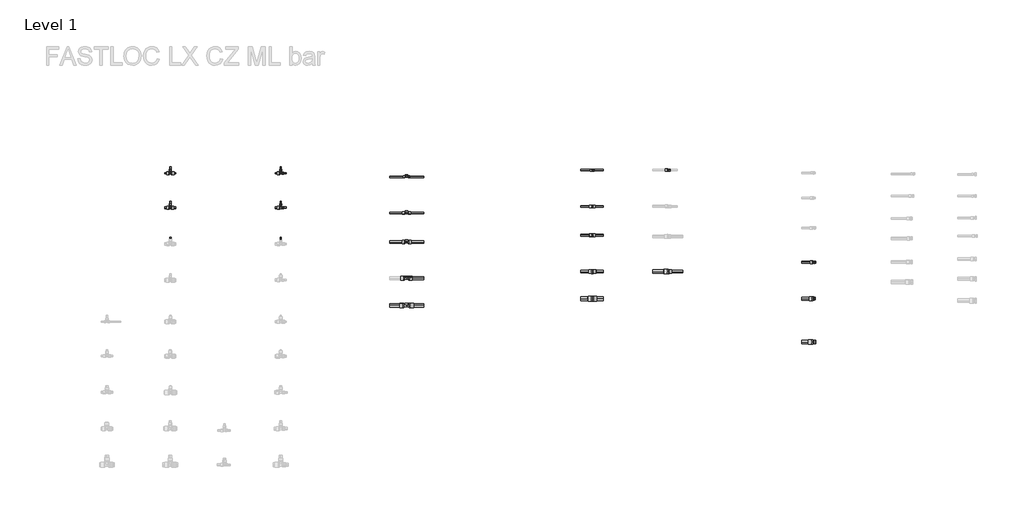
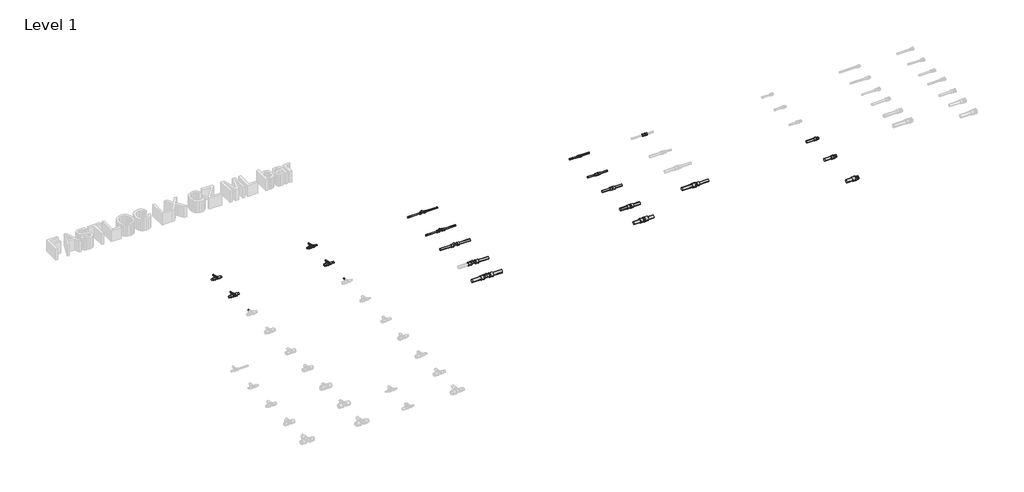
# One storey, part 30 of 78: 38 pipe segments, 19 pipe fittings.
"""IFC4 building model written with IfcOpenShell, lengths in millimetres."""

from ifc_helpers import new_model, si_unit, point, frame, frame_2d, origin, place, context, project, spatial, circle_curve, trimmed, segment, composite_curve, outline, extrude, transform, mapped, element, save
from components import pipe_fitting_027be69e, pipe_fitting_14a26f43, pipe_fitting_91740978, pipe_fitting_5ae7c970, pipe_fitting_e97a97d3, pipe_fitting_8fb58d5f, pipe_fitting_db17a53a, pipe_fitting_d92d4423, pipe_fitting_47d0521d, pipe_fitting_29c4d4eb, pipe_fitting_00caae07, pipe_fitting_1d22680d, pipe_fitting_5e3c5755, pipe_fitting_f5731c1c, pipe_fitting_607ccf76, pipe_fitting_0b32e4b0, pipe_fitting_a999c26e, pipe_fitting_b01d00d0, pipe_fitting_e8fea69e

model = new_model("IFC4")

# Units and contexts
model_context = context("Model", 3, world=origin())
ifc_project = project(units=[si_unit("LENGTHUNIT", "METRE", prefix="MILLI")], contexts=[model_context])

# Site, building, storey
site = spatial("IfcSite", under=ifc_project)
building = spatial("IfcBuilding", under=site)
storey = spatial("IfcBuildingStorey", under=building, Name="Level 1", Elevation=0.0)

# Pipe fittings
placement = place(None, origin())
pipe_fitting_shape = pipe_fitting_027be69e(model_context)
element("IfcPipeFitting", 1, ObjectType="FASTLOC_Coupling equal LX : FSL C LX CZ", at=placement, inside=storey, context=model_context, shape_type="MappedRepresentation", body=[
    mapped(pipe_fitting_shape, transform((29105.4975767, -1205.8821283, 0.0), x_axis=(1.0, 0.0, 0.0), y_axis=(0.0, 1.0, 0.0), z_axis=(0.0, 0.0, 1.0))),
])
pipe_fitting_2_shape = pipe_fitting_14a26f43(model_context)
element("IfcPipeFitting", 2, ObjectType="FASTLOC_Coupling reduced LX : FSL C LX CZ", at=placement, inside=storey, context=model_context, shape_type="MappedRepresentation", body=[
    mapped(pipe_fitting_2_shape, transform((29943.8114162, -2325.8821283, 0.0), x_axis=(1.0, 0.0, 0.0), y_axis=(0.0, 1.0, 0.0), z_axis=(0.0, 0.0, 1.0))),
])
pipe_fitting_3_shape = pipe_fitting_91740978(model_context)
element("IfcPipeFitting", 3, ObjectType="FASTLOC_T-piece internal thread LX : FSL T thread LX CZ", at=placement, inside=storey, context=model_context, shape_type="MappedRepresentation", body=[
    mapped(pipe_fitting_3_shape, transform((27053.7281456, -2399.8272875, 0.0), x_axis=(1.0, 0.0, 0.0), y_axis=(0.0, 1.0, 0.0), z_axis=(0.0, 0.0, 1.0))),
])
pipe_fitting_4_shape = pipe_fitting_5ae7c970(model_context)
element("IfcPipeFitting", 4, ObjectType="FASTLOC_T-piece_LX : FSL T-Piece LX CZ", at=placement, inside=storey, context=model_context, shape_type="MappedRepresentation", body=[
    mapped(pipe_fitting_4_shape, transform((24443.8683677, -1240.2405791, 0.0), x_axis=(1.0, 0.0, 0.0), y_axis=(0.0, 1.0, 0.0), z_axis=(0.0, 0.0, 1.0))),
])
pipe_fitting_5_shape = pipe_fitting_e97a97d3(model_context)
element("IfcPipeFitting", 5, ObjectType="FASTLOC_T-piece_LX : FSL T-Piece LX CZ", at=placement, inside=storey, context=model_context, shape_type="MappedRepresentation", body=[
    mapped(pipe_fitting_5_shape, transform((24443.8683677, -1620.2405791, 0.0), x_axis=(1.0, 0.0, 0.0), y_axis=(0.0, 1.0, 0.0), z_axis=(0.0, 0.0, 1.0))),
])
pipe_fitting_6_shape = pipe_fitting_8fb58d5f(model_context)
element("IfcPipeFitting", 6, ObjectType="FASTLOC_T-piece_LX : FSL T-Piece LX CZ", at=placement, inside=storey, context=model_context, shape_type="MappedRepresentation", body=[
    mapped(pipe_fitting_6_shape, transform((25663.8683677, -1240.2405791, 0.0), x_axis=(1.0, 0.0, 0.0), y_axis=(0.0, 1.0, 0.0), z_axis=(0.0, 0.0, 1.0))),
])
pipe_fitting_7_shape = pipe_fitting_db17a53a(model_context)
element("IfcPipeFitting", 7, ObjectType="FASTLOC_T-piece_LX : FSL T-Piece LX CZ", at=placement, inside=storey, context=model_context, shape_type="MappedRepresentation", body=[
    mapped(pipe_fitting_7_shape, transform((25663.8683677, -1620.2405791, 0.0), x_axis=(1.0, 0.0, 0.0), y_axis=(0.0, 1.0, 0.0), z_axis=(0.0, 0.0, 1.0))),
])
pipe_fitting_8_shape = pipe_fitting_d92d4423(model_context)
element("IfcPipeFitting", 8, ObjectType="FASTLOC_T-piece internal thread LX : FSL T thread LX CZ", at=placement, inside=storey, context=model_context, shape_type="MappedRepresentation", body=[
    mapped(pipe_fitting_8_shape, transform((27053.7281456, -1279.8272875, 0.0), x_axis=(1.0, 0.0, 0.0), y_axis=(0.0, 1.0, 0.0), z_axis=(0.0, 0.0, 1.0))),
])
pipe_fitting_9_shape = pipe_fitting_47d0521d(model_context)
element("IfcPipeFitting", 9, ObjectType="FASTLOC_T-piece internal thread LX : FSL T thread LX CZ", at=placement, inside=storey, context=model_context, shape_type="MappedRepresentation", body=[
    mapped(pipe_fitting_9_shape, transform((27053.7281456, -1679.8272875, 0.0), x_axis=(1.0, 0.0, 0.0), y_axis=(0.0, 1.0, 0.0), z_axis=(0.0, 0.0, 1.0))),
])
pipe_fitting_10_shape = pipe_fitting_29c4d4eb(model_context)
element("IfcPipeFitting", 10, ObjectType="FASTLOC_T-piece internal thread LX : FSL T thread LX CZ", at=placement, inside=storey, context=model_context, shape_type="MappedRepresentation", body=[
    mapped(pipe_fitting_10_shape, transform((27053.7281456, -1999.8272875, 0.0), x_axis=(1.0, 0.0, 0.0), y_axis=(0.0, 1.0, 0.0), z_axis=(0.0, 0.0, 1.0))),
])
pipe_fitting_11_shape = pipe_fitting_00caae07(model_context)
element("IfcPipeFitting", 11, ObjectType="FASTLOC_T-piece internal thread LX : FSL T thread LX CZ", at=placement, inside=storey, context=model_context, shape_type="MappedRepresentation", body=[
    mapped(pipe_fitting_11_shape, transform((27053.7281456, -2699.8272875, 0.0), x_axis=(1.0, 0.0, 0.0), y_axis=(0.0, 1.0, 0.0), z_axis=(0.0, 0.0, 1.0))),
])
pipe_fitting_12_shape = pipe_fitting_1d22680d(model_context)
element("IfcPipeFitting", 12, ObjectType="FASTLOC_Coupling equal LX : FSL C LX CZ", at=placement, inside=storey, context=model_context, shape_type="MappedRepresentation", body=[
    mapped(pipe_fitting_12_shape, transform((29105.4975767, -1605.8821283, 0.0), x_axis=(1.0, 0.0, 0.0), y_axis=(0.0, 1.0, 0.0), z_axis=(0.0, 0.0, 1.0))),
])
pipe_fitting_13_shape = pipe_fitting_5e3c5755(model_context)
element("IfcPipeFitting", 13, ObjectType="FASTLOC_Coupling equal LX : FSL C LX CZ", at=placement, inside=storey, context=model_context, shape_type="MappedRepresentation", body=[
    mapped(pipe_fitting_13_shape, transform((29105.4975767, -1925.8821283, 0.0), x_axis=(1.0, 0.0, 0.0), y_axis=(0.0, 1.0, 0.0), z_axis=(0.0, 0.0, 1.0))),
])
pipe_fitting_14_shape = pipe_fitting_f5731c1c(model_context)
element("IfcPipeFitting", 14, ObjectType="FASTLOC_Coupling equal LX : FSL C LX CZ", at=placement, inside=storey, context=model_context, shape_type="MappedRepresentation", body=[
    mapped(pipe_fitting_14_shape, transform((29105.4975767, -2325.8821283, 0.0), x_axis=(1.0, 0.0, 0.0), y_axis=(0.0, 1.0, 0.0), z_axis=(0.0, 0.0, 1.0))),
])
pipe_fitting_15_shape = pipe_fitting_607ccf76(model_context)
element("IfcPipeFitting", 15, ObjectType="FASTLOC_Coupling equal LX : FSL C LX CZ", at=placement, inside=storey, context=model_context, shape_type="MappedRepresentation", body=[
    mapped(pipe_fitting_15_shape, transform((29105.4975767, -2625.8821283, 0.0), x_axis=(1.0, 0.0, 0.0), y_axis=(0.0, 1.0, 0.0), z_axis=(0.0, 0.0, 1.0))),
])
pipe_fitting_16_shape = pipe_fitting_0b32e4b0(model_context)
element("IfcPipeFitting", 16, ObjectType="FASTLOC_Coupling reduced LX : FSL C LX CZ", at=placement, inside=storey, context=model_context, shape_type="MappedRepresentation", body=[
    mapped(pipe_fitting_16_shape, transform((29943.8114162, -1205.8821283, 0.0), x_axis=(1.0, 0.0, 0.0), y_axis=(0.0, 1.0, 0.0), z_axis=(0.0, 0.0, 1.0))),
])
pipe_fitting_17_shape = pipe_fitting_a999c26e(model_context)
element("IfcPipeFitting", 17, ObjectType="FASTLOC_Adapter_LX, with external thread : FSL A C external CZ", at=placement, inside=storey, context=model_context, shape_type="MappedRepresentation", body=[
    mapped(pipe_fitting_17_shape, transform((31544.0138737, -2224.2068389, 0.0), x_axis=(1.0, 0.0, 0.0), y_axis=(0.0, 1.0, 0.0), z_axis=(0.0, 0.0, 1.0))),
])
pipe_fitting_18_shape = pipe_fitting_b01d00d0(model_context)
element("IfcPipeFitting", 18, ObjectType="FASTLOC_Adapter_LX, with external thread : FSL A C external CZ", at=placement, inside=storey, context=model_context, shape_type="MappedRepresentation", body=[
    mapped(pipe_fitting_18_shape, transform((31544.0138737, -2624.2068389, 0.0), x_axis=(1.0, 0.0, 0.0), y_axis=(0.0, 1.0, 0.0), z_axis=(0.0, 0.0, 1.0))),
])
pipe_fitting_19_shape = pipe_fitting_e8fea69e(model_context)
element("IfcPipeFitting", 19, ObjectType="FASTLOC_Adapter_LX, with external thread : FSL A C external CZ", at=placement, inside=storey, context=model_context, shape_type="MappedRepresentation", body=[
    mapped(pipe_fitting_19_shape, transform((31544.0138737, -3104.2068389, 0.0), x_axis=(1.0, 0.0, 0.0), y_axis=(0.0, 1.0, 0.0), z_axis=(0.0, 0.0, 1.0))),
])

# Pipe segments
element("IfcPipeSegment", 20, ObjectType="FASTLOC LX ML CZ bar", at=placement, inside=storey, context=model_context, shape_type="SweptSolid", body=[
    extrude(outline(composite_curve([segment(trimmed(circle_curve(frame_2d((-1240.2405791, 0.0)), 8.0), [point((-1248.2405791, 0.0))], [point((-1240.2405791, 8.0))], False, "CARTESIAN"), True, "CONTINUOUS"), segment(trimmed(circle_curve(frame_2d((-1240.2405791, 0.0)), 8.0), [point((-1240.2405791, 8.0))], [point((-1232.2405791, 0.0))], False, "CARTESIAN"), True, "CONTINUOUS"), segment(trimmed(circle_curve(frame_2d((-1240.2405791, 0.0)), 8.0), [point((-1232.2405791, 0.0))], [point((-1240.2405791, -8.0))], False, "CARTESIAN"), True, "CONTINUOUS"), segment(trimmed(circle_curve(frame_2d((-1240.2405791, 0.0)), 8.0), [point((-1240.2405791, -8.0))], [point((-1248.2405791, 0.0))], False, "CARTESIAN"), True, "CONTINUOUS")], self_intersect=False)), frame((24459.1683677, 0.0, 0.0), z_axis=(1.0, 0.0, 0.0), x_axis=(0.0, 1.0, 0.0)), (0.0, 0.0, 1.0), 46.7),
])
element("IfcPipeSegment", 21, ObjectType="FASTLOC LX ML CZ bar", at=placement, inside=storey, context=model_context, shape_type="SweptSolid", body=[
    extrude(outline(composite_curve([segment(trimmed(circle_curve(frame_2d((-1240.2405791, 0.0)), 8.0), [point((-1232.2405791, 0.0))], [point((-1240.2405791, -8.0))], False, "CARTESIAN"), True, "CONTINUOUS"), segment(trimmed(circle_curve(frame_2d((-1240.2405791, 0.0)), 8.0), [point((-1240.2405791, -8.0))], [point((-1248.2405791, 0.0))], False, "CARTESIAN"), True, "CONTINUOUS"), segment(trimmed(circle_curve(frame_2d((-1240.2405791, 0.0)), 8.0), [point((-1248.2405791, 0.0))], [point((-1240.2405791, 8.0))], False, "CARTESIAN"), True, "CONTINUOUS"), segment(trimmed(circle_curve(frame_2d((-1240.2405791, 0.0)), 8.0), [point((-1240.2405791, 8.0))], [point((-1232.2405791, 0.0))], False, "CARTESIAN"), True, "CONTINUOUS")], self_intersect=False)), frame((24381.8683677, 0.0, 0.0), z_axis=(1.0, 0.0, 0.0), x_axis=(0.0, 1.0, 0.0)), (0.0, 0.0, 1.0), 46.7),
])
element("IfcPipeSegment", 22, ObjectType="FASTLOC LX ML CZ bar", at=placement, inside=storey, context=model_context, shape_type="SweptSolid", body=[
    extrude(outline(composite_curve([segment(trimmed(circle_curve(frame_2d((0.0, 24443.8683677)), 8.0), [point((0.0, 24451.8683677))], [point((8.0, 24443.8683677))], False, "CARTESIAN"), True, "CONTINUOUS"), segment(trimmed(circle_curve(frame_2d((0.0, 24443.8683677)), 8.0), [point((8.0, 24443.8683677))], [point((0.0, 24435.8683677))], False, "CARTESIAN"), True, "CONTINUOUS"), segment(trimmed(circle_curve(frame_2d((0.0, 24443.8683677)), 8.0), [point((0.0, 24435.8683677))], [point((-8.0, 24443.8683677))], False, "CARTESIAN"), True, "CONTINUOUS"), segment(trimmed(circle_curve(frame_2d((0.0, 24443.8683677)), 8.0), [point((-8.0, 24443.8683677))], [point((0.0, 24451.8683677))], False, "CARTESIAN"), True, "CONTINUOUS")], self_intersect=False)), frame((0.0, -1213.9405791, 0.0), z_axis=(0.0, 1.0, 0.0), x_axis=(0.0, 0.0, 1.0)), (0.0, 0.0, 1.0), 46.0),
])
element("IfcPipeSegment", 23, ObjectType="FASTLOC LX ML CZ bar", at=placement, inside=storey, context=model_context, shape_type="SweptSolid", body=[
    extrude(outline(composite_curve([segment(trimmed(circle_curve(frame_2d((-1620.2405791, 0.0)), 12.5), [point((-1632.7405791, 0.0))], [point((-1620.2405791, 12.5))], False, "CARTESIAN"), True, "CONTINUOUS"), segment(trimmed(circle_curve(frame_2d((-1620.2405791, 0.0)), 12.5), [point((-1620.2405791, 12.5))], [point((-1607.7405791, 0.0))], False, "CARTESIAN"), True, "CONTINUOUS"), segment(trimmed(circle_curve(frame_2d((-1620.2405791, 0.0)), 12.5), [point((-1607.7405791, 0.0))], [point((-1620.2405791, -12.5))], False, "CARTESIAN"), True, "CONTINUOUS"), segment(trimmed(circle_curve(frame_2d((-1620.2405791, 0.0)), 12.5), [point((-1620.2405791, -12.5))], [point((-1632.7405791, 0.0))], False, "CARTESIAN"), True, "CONTINUOUS")], self_intersect=False)), frame((24460.0683677, 0.0, 0.0), z_axis=(1.0, 0.0, 0.0), x_axis=(0.0, 1.0, 0.0)), (0.0, 0.0, 1.0), 45.8),
])
element("IfcPipeSegment", 24, ObjectType="FASTLOC LX ML CZ bar", at=placement, inside=storey, context=model_context, shape_type="SweptSolid", body=[
    extrude(outline(composite_curve([segment(trimmed(circle_curve(frame_2d((-1620.2405791, 0.0)), 12.5), [point((-1607.7405791, 0.0))], [point((-1620.2405791, -12.5))], False, "CARTESIAN"), True, "CONTINUOUS"), segment(trimmed(circle_curve(frame_2d((-1620.2405791, 0.0)), 12.5), [point((-1620.2405791, -12.5))], [point((-1632.7405791, 0.0))], False, "CARTESIAN"), True, "CONTINUOUS"), segment(trimmed(circle_curve(frame_2d((-1620.2405791, 0.0)), 12.5), [point((-1632.7405791, 0.0))], [point((-1620.2405791, 12.5))], False, "CARTESIAN"), True, "CONTINUOUS"), segment(trimmed(circle_curve(frame_2d((-1620.2405791, 0.0)), 12.5), [point((-1620.2405791, 12.5))], [point((-1607.7405791, 0.0))], False, "CARTESIAN"), True, "CONTINUOUS")], self_intersect=False)), frame((24381.8683677, 0.0, 0.0), z_axis=(1.0, 0.0, 0.0), x_axis=(0.0, 1.0, 0.0)), (0.0, 0.0, 1.0), 45.8),
])
element("IfcPipeSegment", 25, ObjectType="FASTLOC LX ML CZ bar", at=placement, inside=storey, context=model_context, shape_type="SweptSolid", body=[
    extrude(outline(composite_curve([segment(trimmed(circle_curve(frame_2d((0.0, 24443.8683677)), 8.0), [point((0.0, 24451.8683677))], [point((8.0, 24443.8683677))], False, "CARTESIAN"), True, "CONTINUOUS"), segment(trimmed(circle_curve(frame_2d((0.0, 24443.8683677)), 8.0), [point((8.0, 24443.8683677))], [point((0.0, 24435.8683677))], False, "CARTESIAN"), True, "CONTINUOUS"), segment(trimmed(circle_curve(frame_2d((0.0, 24443.8683677)), 8.0), [point((0.0, 24435.8683677))], [point((-8.0, 24443.8683677))], False, "CARTESIAN"), True, "CONTINUOUS"), segment(trimmed(circle_curve(frame_2d((0.0, 24443.8683677)), 8.0), [point((-8.0, 24443.8683677))], [point((0.0, 24451.8683677))], False, "CARTESIAN"), True, "CONTINUOUS")], self_intersect=False)), frame((0.0, -1591.2405791, 0.0), z_axis=(0.0, 1.0, 0.0), x_axis=(0.0, 0.0, 1.0)), (0.0, 0.0, 1.0), 43.3),
])
element("IfcPipeSegment", 26, ObjectType="FASTLOC LX ML CZ bar", at=placement, inside=storey, context=model_context, shape_type="SweptSolid", body=[
    extrude(outline(composite_curve([segment(trimmed(circle_curve(frame_2d((0.0, 24443.8683677)), 8.0), [point((0.0, 24451.8683677))], [point((8.0, 24443.8683677))], False, "CARTESIAN"), True, "CONTINUOUS"), segment(trimmed(circle_curve(frame_2d((0.0, 24443.8683677)), 8.0), [point((8.0, 24443.8683677))], [point((0.0, 24435.8683677))], False, "CARTESIAN"), True, "CONTINUOUS"), segment(trimmed(circle_curve(frame_2d((0.0, 24443.8683677)), 8.0), [point((0.0, 24435.8683677))], [point((-8.0, 24443.8683677))], False, "CARTESIAN"), True, "CONTINUOUS"), segment(trimmed(circle_curve(frame_2d((0.0, 24443.8683677)), 8.0), [point((-8.0, 24443.8683677))], [point((0.0, 24451.8683677))], False, "CARTESIAN"), True, "CONTINUOUS")], self_intersect=False)), frame((0.0, -1991.0405791, 0.0), z_axis=(0.0, 1.0, 0.0), x_axis=(0.0, 0.0, 1.0)), (0.0, 0.0, 1.0), 43.1),
])
element("IfcPipeSegment", 27, ObjectType="FASTLOC LX ML CZ bar", at=placement, inside=storey, context=model_context, shape_type="SweptSolid", body=[
    extrude(outline(composite_curve([segment(trimmed(circle_curve(frame_2d((-1240.2405791, 0.0)), 8.0), [point((-1248.2405791, 0.0))], [point((-1240.2405791, 8.0))], False, "CARTESIAN"), True, "CONTINUOUS"), segment(trimmed(circle_curve(frame_2d((-1240.2405791, 0.0)), 8.0), [point((-1240.2405791, 8.0))], [point((-1232.2405791, 0.0))], False, "CARTESIAN"), True, "CONTINUOUS"), segment(trimmed(circle_curve(frame_2d((-1240.2405791, 0.0)), 8.0), [point((-1232.2405791, 0.0))], [point((-1240.2405791, -8.0))], False, "CARTESIAN"), True, "CONTINUOUS"), segment(trimmed(circle_curve(frame_2d((-1240.2405791, 0.0)), 8.0), [point((-1240.2405791, -8.0))], [point((-1248.2405791, 0.0))], False, "CARTESIAN"), True, "CONTINUOUS")], self_intersect=False)), frame((25678.9683677, 0.0, 0.0), z_axis=(1.0, 0.0, 0.0), x_axis=(0.0, 1.0, 0.0)), (0.0, 0.0, 1.0), 46.9),
])
element("IfcPipeSegment", 28, ObjectType="FASTLOC LX ML CZ bar", at=placement, inside=storey, context=model_context, shape_type="SweptSolid", body=[
    extrude(outline(composite_curve([segment(trimmed(circle_curve(frame_2d((-1240.2405791, 0.0)), 8.0), [point((-1232.2405791, 0.0))], [point((-1240.2405791, -8.0))], False, "CARTESIAN"), True, "CONTINUOUS"), segment(trimmed(circle_curve(frame_2d((-1240.2405791, 0.0)), 8.0), [point((-1240.2405791, -8.0))], [point((-1248.2405791, 0.0))], False, "CARTESIAN"), True, "CONTINUOUS"), segment(trimmed(circle_curve(frame_2d((-1240.2405791, 0.0)), 8.0), [point((-1248.2405791, 0.0))], [point((-1240.2405791, 8.0))], False, "CARTESIAN"), True, "CONTINUOUS"), segment(trimmed(circle_curve(frame_2d((-1240.2405791, 0.0)), 8.0), [point((-1240.2405791, 8.0))], [point((-1232.2405791, 0.0))], False, "CARTESIAN"), True, "CONTINUOUS")], self_intersect=False)), frame((25601.8683677, 0.0, 0.0), z_axis=(1.0, 0.0, 0.0), x_axis=(0.0, 1.0, 0.0)), (0.0, 0.0, 1.0), 46.5),
])
element("IfcPipeSegment", 29, ObjectType="FASTLOC LX ML CZ bar", at=placement, inside=storey, context=model_context, shape_type="SweptSolid", body=[
    extrude(outline(composite_curve([segment(trimmed(circle_curve(frame_2d((0.0, 25663.8683677)), 8.0), [point((0.0, 25671.8683677))], [point((8.0, 25663.8683677))], False, "CARTESIAN"), True, "CONTINUOUS"), segment(trimmed(circle_curve(frame_2d((0.0, 25663.8683677)), 8.0), [point((8.0, 25663.8683677))], [point((0.0, 25655.8683677))], False, "CARTESIAN"), True, "CONTINUOUS"), segment(trimmed(circle_curve(frame_2d((0.0, 25663.8683677)), 8.0), [point((0.0, 25655.8683677))], [point((-8.0, 25663.8683677))], False, "CARTESIAN"), True, "CONTINUOUS"), segment(trimmed(circle_curve(frame_2d((0.0, 25663.8683677)), 8.0), [point((-8.0, 25663.8683677))], [point((0.0, 25671.8683677))], False, "CARTESIAN"), True, "CONTINUOUS")], self_intersect=False)), frame((0.0, -1213.8405791, 0.0), z_axis=(0.0, 1.0, 0.0), x_axis=(0.0, 0.0, 1.0)), (0.0, 0.0, 1.0), 45.9),
])
element("IfcPipeSegment", 30, ObjectType="FASTLOC LX ML CZ bar", at=placement, inside=storey, context=model_context, shape_type="SweptSolid", body=[
    extrude(outline(composite_curve([segment(trimmed(circle_curve(frame_2d((-1620.2405791, 0.0)), 8.0), [point((-1628.2405791, 0.0))], [point((-1620.2405791, 8.0))], False, "CARTESIAN"), True, "CONTINUOUS"), segment(trimmed(circle_curve(frame_2d((-1620.2405791, 0.0)), 8.0), [point((-1620.2405791, 8.0))], [point((-1612.2405791, 0.0))], False, "CARTESIAN"), True, "CONTINUOUS"), segment(trimmed(circle_curve(frame_2d((-1620.2405791, 0.0)), 8.0), [point((-1612.2405791, 0.0))], [point((-1620.2405791, -8.0))], False, "CARTESIAN"), True, "CONTINUOUS"), segment(trimmed(circle_curve(frame_2d((-1620.2405791, 0.0)), 8.0), [point((-1620.2405791, -8.0))], [point((-1628.2405791, 0.0))], False, "CARTESIAN"), True, "CONTINUOUS")], self_intersect=False)), frame((25678.9683677, 0.0, 0.0), z_axis=(1.0, 0.0, 0.0), x_axis=(0.0, 1.0, 0.0)), (0.0, 0.0, 1.0), 46.9),
])
element("IfcPipeSegment", 31, ObjectType="FASTLOC LX ML CZ bar", at=placement, inside=storey, context=model_context, shape_type="SweptSolid", body=[
    extrude(outline(composite_curve([segment(trimmed(circle_curve(frame_2d((-1620.2405791, 0.0)), 12.5), [point((-1607.7405791, 0.0))], [point((-1620.2405791, -12.5))], False, "CARTESIAN"), True, "CONTINUOUS"), segment(trimmed(circle_curve(frame_2d((-1620.2405791, 0.0)), 12.5), [point((-1620.2405791, -12.5))], [point((-1632.7405791, 0.0))], False, "CARTESIAN"), True, "CONTINUOUS"), segment(trimmed(circle_curve(frame_2d((-1620.2405791, 0.0)), 12.5), [point((-1632.7405791, 0.0))], [point((-1620.2405791, 12.5))], False, "CARTESIAN"), True, "CONTINUOUS"), segment(trimmed(circle_curve(frame_2d((-1620.2405791, 0.0)), 12.5), [point((-1620.2405791, 12.5))], [point((-1607.7405791, 0.0))], False, "CARTESIAN"), True, "CONTINUOUS")], self_intersect=False)), frame((25601.8683677, 0.0, 0.0), z_axis=(1.0, 0.0, 0.0), x_axis=(0.0, 1.0, 0.0)), (0.0, 0.0, 1.0), 45.6),
])
element("IfcPipeSegment", 32, ObjectType="FASTLOC LX ML CZ bar", at=placement, inside=storey, context=model_context, shape_type="SweptSolid", body=[
    extrude(outline(composite_curve([segment(trimmed(circle_curve(frame_2d((0.0, 25663.8683677)), 8.0), [point((0.0, 25671.8683677))], [point((8.0, 25663.8683677))], False, "CARTESIAN"), True, "CONTINUOUS"), segment(trimmed(circle_curve(frame_2d((0.0, 25663.8683677)), 8.0), [point((8.0, 25663.8683677))], [point((0.0, 25655.8683677))], False, "CARTESIAN"), True, "CONTINUOUS"), segment(trimmed(circle_curve(frame_2d((0.0, 25663.8683677)), 8.0), [point((0.0, 25655.8683677))], [point((-8.0, 25663.8683677))], False, "CARTESIAN"), True, "CONTINUOUS"), segment(trimmed(circle_curve(frame_2d((0.0, 25663.8683677)), 8.0), [point((-8.0, 25663.8683677))], [point((0.0, 25671.8683677))], False, "CARTESIAN"), True, "CONTINUOUS")], self_intersect=False)), frame((0.0, -1591.1405791, 0.0), z_axis=(0.0, 1.0, 0.0), x_axis=(0.0, 0.0, 1.0)), (0.0, 0.0, 1.0), 43.2),
])
element("IfcPipeSegment", 33, ObjectType="FASTLOC LX ML CZ bar", at=placement, inside=storey, context=model_context, shape_type="SweptSolid", body=[
    extrude(outline(composite_curve([segment(trimmed(circle_curve(frame_2d((0.0, 25663.8683677)), 8.0), [point((0.0, 25671.8683677))], [point((8.0, 25663.8683677))], False, "CARTESIAN"), True, "CONTINUOUS"), segment(trimmed(circle_curve(frame_2d((0.0, 25663.8683677)), 8.0), [point((8.0, 25663.8683677))], [point((0.0, 25655.8683677))], False, "CARTESIAN"), True, "CONTINUOUS"), segment(trimmed(circle_curve(frame_2d((0.0, 25663.8683677)), 8.0), [point((0.0, 25655.8683677))], [point((-8.0, 25663.8683677))], False, "CARTESIAN"), True, "CONTINUOUS"), segment(trimmed(circle_curve(frame_2d((0.0, 25663.8683677)), 8.0), [point((-8.0, 25663.8683677))], [point((0.0, 25671.8683677))], False, "CARTESIAN"), True, "CONTINUOUS")], self_intersect=False)), frame((0.0, -1991.1405791, 0.0), z_axis=(0.0, 1.0, 0.0), x_axis=(0.0, 0.0, 1.0)), (0.0, 0.0, 1.0), 43.2),
])
element("IfcPipeSegment", 34, ObjectType="FASTLOC LX ML CZ bar", at=placement, inside=storey, context=model_context, shape_type="SweptSolid", body=[
    extrude(outline(composite_curve([segment(trimmed(circle_curve(frame_2d((-1279.8272875, 0.0)), 8.0), [point((-1287.8272875, 0.0))], [point((-1279.8272875, 8.0))], False, "CARTESIAN"), True, "CONTINUOUS"), segment(trimmed(circle_curve(frame_2d((-1279.8272875, 0.0)), 8.0), [point((-1279.8272875, 8.0))], [point((-1271.8272875, 0.0))], False, "CARTESIAN"), True, "CONTINUOUS"), segment(trimmed(circle_curve(frame_2d((-1279.8272875, 0.0)), 8.0), [point((-1271.8272875, 0.0))], [point((-1279.8272875, -8.0))], False, "CARTESIAN"), True, "CONTINUOUS"), segment(trimmed(circle_curve(frame_2d((-1279.8272875, 0.0)), 8.0), [point((-1279.8272875, -8.0))], [point((-1287.8272875, 0.0))], False, "CARTESIAN"), True, "CONTINUOUS")], self_intersect=False)), frame((27075.7281456, 0.0, 0.0), z_axis=(1.0, 0.0, 0.0), x_axis=(0.0, 1.0, 0.0)), (0.0, 0.0, 1.0), 170.0),
])
element("IfcPipeSegment", 35, ObjectType="FASTLOC LX ML CZ bar", at=placement, inside=storey, context=model_context, shape_type="SweptSolid", body=[
    extrude(outline(composite_curve([segment(trimmed(circle_curve(frame_2d((-1279.8272875, 0.0)), 8.0), [point((-1271.8272875, 0.0))], [point((-1279.8272875, -8.0))], False, "CARTESIAN"), True, "CONTINUOUS"), segment(trimmed(circle_curve(frame_2d((-1279.8272875, 0.0)), 8.0), [point((-1279.8272875, -8.0))], [point((-1287.8272875, 0.0))], False, "CARTESIAN"), True, "CONTINUOUS"), segment(trimmed(circle_curve(frame_2d((-1279.8272875, 0.0)), 8.0), [point((-1287.8272875, 0.0))], [point((-1279.8272875, 8.0))], False, "CARTESIAN"), True, "CONTINUOUS"), segment(trimmed(circle_curve(frame_2d((-1279.8272875, 0.0)), 8.0), [point((-1279.8272875, 8.0))], [point((-1271.8272875, 0.0))], False, "CARTESIAN"), True, "CONTINUOUS")], self_intersect=False)), frame((26866.7281456, 0.0, 0.0), z_axis=(1.0, 0.0, 0.0), x_axis=(0.0, 1.0, 0.0)), (0.0, 0.0, 1.0), 165.0),
])
element("IfcPipeSegment", 36, ObjectType="FASTLOC LX ML CZ bar", at=placement, inside=storey, context=model_context, shape_type="SweptSolid", body=[
    extrude(outline(composite_curve([segment(trimmed(circle_curve(frame_2d((-1679.8272875, 0.0)), 8.0), [point((-1687.8272875, 0.0))], [point((-1679.8272875, 8.0))], False, "CARTESIAN"), True, "CONTINUOUS"), segment(trimmed(circle_curve(frame_2d((-1679.8272875, 0.0)), 8.0), [point((-1679.8272875, 8.0))], [point((-1671.8272875, 0.0))], False, "CARTESIAN"), True, "CONTINUOUS"), segment(trimmed(circle_curve(frame_2d((-1679.8272875, 0.0)), 8.0), [point((-1671.8272875, 0.0))], [point((-1679.8272875, -8.0))], False, "CARTESIAN"), True, "CONTINUOUS"), segment(trimmed(circle_curve(frame_2d((-1679.8272875, 0.0)), 8.0), [point((-1679.8272875, -8.0))], [point((-1687.8272875, 0.0))], False, "CARTESIAN"), True, "CONTINUOUS")], self_intersect=False)), frame((27076.2281456, 0.0, 0.0), z_axis=(1.0, 0.0, 0.0), x_axis=(0.0, 1.0, 0.0)), (0.0, 0.0, 1.0), 169.5),
])
element("IfcPipeSegment", 37, ObjectType="FASTLOC LX ML CZ bar", at=placement, inside=storey, context=model_context, shape_type="SweptSolid", body=[
    extrude(outline(composite_curve([segment(trimmed(circle_curve(frame_2d((-1679.8272875, 0.0)), 8.0), [point((-1671.8272875, 0.0))], [point((-1679.8272875, -8.0))], False, "CARTESIAN"), True, "CONTINUOUS"), segment(trimmed(circle_curve(frame_2d((-1679.8272875, 0.0)), 8.0), [point((-1679.8272875, -8.0))], [point((-1687.8272875, 0.0))], False, "CARTESIAN"), True, "CONTINUOUS"), segment(trimmed(circle_curve(frame_2d((-1679.8272875, 0.0)), 8.0), [point((-1687.8272875, 0.0))], [point((-1679.8272875, 8.0))], False, "CARTESIAN"), True, "CONTINUOUS"), segment(trimmed(circle_curve(frame_2d((-1679.8272875, 0.0)), 8.0), [point((-1679.8272875, 8.0))], [point((-1671.8272875, 0.0))], False, "CARTESIAN"), True, "CONTINUOUS")], self_intersect=False)), frame((26866.7281456, 0.0, 0.0), z_axis=(1.0, 0.0, 0.0), x_axis=(0.0, 1.0, 0.0)), (0.0, 0.0, 1.0), 164.5),
])
element("IfcPipeSegment", 38, ObjectType="FASTLOC LX ML CZ bar", at=placement, inside=storey, context=model_context, shape_type="SweptSolid", body=[
    extrude(outline(composite_curve([segment(trimmed(circle_curve(frame_2d((-1999.8272875, 0.0)), 12.5), [point((-2012.3272875, 0.0))], [point((-1999.8272875, 12.5))], False, "CARTESIAN"), True, "CONTINUOUS"), segment(trimmed(circle_curve(frame_2d((-1999.8272875, 0.0)), 12.5), [point((-1999.8272875, 12.5))], [point((-1987.3272875, 0.0))], False, "CARTESIAN"), True, "CONTINUOUS"), segment(trimmed(circle_curve(frame_2d((-1999.8272875, 0.0)), 12.5), [point((-1987.3272875, 0.0))], [point((-1999.8272875, -12.5))], False, "CARTESIAN"), True, "CONTINUOUS"), segment(trimmed(circle_curve(frame_2d((-1999.8272875, 0.0)), 12.5), [point((-1999.8272875, -12.5))], [point((-2012.3272875, 0.0))], False, "CARTESIAN"), True, "CONTINUOUS")], self_intersect=False)), frame((27080.4281456, 0.0, 0.0), z_axis=(1.0, 0.0, 0.0), x_axis=(0.0, 1.0, 0.0)), (0.0, 0.0, 1.0), 165.3),
])
element("IfcPipeSegment", 39, ObjectType="FASTLOC LX ML CZ bar", at=placement, inside=storey, context=model_context, shape_type="SweptSolid", body=[
    extrude(outline(composite_curve([segment(trimmed(circle_curve(frame_2d((-1999.8272875, 0.0)), 12.5), [point((-1987.3272875, 0.0))], [point((-1999.8272875, -12.5))], False, "CARTESIAN"), True, "CONTINUOUS"), segment(trimmed(circle_curve(frame_2d((-1999.8272875, 0.0)), 12.5), [point((-1999.8272875, -12.5))], [point((-2012.3272875, 0.0))], False, "CARTESIAN"), True, "CONTINUOUS"), segment(trimmed(circle_curve(frame_2d((-1999.8272875, 0.0)), 12.5), [point((-2012.3272875, 0.0))], [point((-1999.8272875, 12.5))], False, "CARTESIAN"), True, "CONTINUOUS"), segment(trimmed(circle_curve(frame_2d((-1999.8272875, 0.0)), 12.5), [point((-1999.8272875, 12.5))], [point((-1987.3272875, 0.0))], False, "CARTESIAN"), True, "CONTINUOUS")], self_intersect=False)), frame((26866.7281456, 0.0, 0.0), z_axis=(1.0, 0.0, 0.0), x_axis=(0.0, 1.0, 0.0)), (0.0, 0.0, 1.0), 160.3),
])
element("IfcPipeSegment", 40, ObjectType="FASTLOC LX ML CZ bar", at=placement, inside=storey, context=model_context, shape_type="SweptSolid", body=[
    extrude(outline(composite_curve([segment(trimmed(circle_curve(frame_2d((-2399.8272875, 0.0)), 16.0), [point((-2415.8272875, 0.0))], [point((-2399.8272875, 16.0))], False, "CARTESIAN"), True, "CONTINUOUS"), segment(trimmed(circle_curve(frame_2d((-2399.8272875, 0.0)), 16.0), [point((-2399.8272875, 16.0))], [point((-2383.8272875, 0.0))], False, "CARTESIAN"), True, "CONTINUOUS"), segment(trimmed(circle_curve(frame_2d((-2399.8272875, 0.0)), 16.0), [point((-2383.8272875, 0.0))], [point((-2399.8272875, -16.0))], False, "CARTESIAN"), True, "CONTINUOUS"), segment(trimmed(circle_curve(frame_2d((-2399.8272875, 0.0)), 16.0), [point((-2399.8272875, -16.0))], [point((-2415.8272875, 0.0))], False, "CARTESIAN"), True, "CONTINUOUS")], self_intersect=False)), frame((27086.7281456, 0.0, 0.0), z_axis=(1.0, 0.0, 0.0), x_axis=(0.0, 1.0, 0.0)), (0.0, 0.0, 1.0), 159.0),
])
element("IfcPipeSegment", 41, ObjectType="FASTLOC LX ML CZ bar", at=placement, inside=storey, context=model_context, shape_type="SweptSolid", body=[
    extrude(outline(composite_curve([segment(trimmed(circle_curve(frame_2d((-2699.8272875, 0.0)), 20.0), [point((-2719.8272875, 0.0))], [point((-2699.8272875, 20.0))], False, "CARTESIAN"), True, "CONTINUOUS"), segment(trimmed(circle_curve(frame_2d((-2699.8272875, 0.0)), 20.0), [point((-2699.8272875, 20.0))], [point((-2679.8272875, 0.0))], False, "CARTESIAN"), True, "CONTINUOUS"), segment(trimmed(circle_curve(frame_2d((-2699.8272875, 0.0)), 20.0), [point((-2679.8272875, 0.0))], [point((-2699.8272875, -20.0))], False, "CARTESIAN"), True, "CONTINUOUS"), segment(trimmed(circle_curve(frame_2d((-2699.8272875, 0.0)), 20.0), [point((-2699.8272875, -20.0))], [point((-2719.8272875, 0.0))], False, "CARTESIAN"), True, "CONTINUOUS")], self_intersect=False)), frame((27095.0281456, 0.0, 0.0), z_axis=(1.0, 0.0, 0.0), x_axis=(0.0, 1.0, 0.0)), (0.0, 0.0, 1.0), 150.7),
])
element("IfcPipeSegment", 42, ObjectType="FASTLOC LX ML CZ bar", at=placement, inside=storey, context=model_context, shape_type="SweptSolid", body=[
    extrude(outline(composite_curve([segment(trimmed(circle_curve(frame_2d((-2699.8272875, 0.0)), 20.0), [point((-2679.8272875, 0.0))], [point((-2699.8272875, -20.0))], False, "CARTESIAN"), True, "CONTINUOUS"), segment(trimmed(circle_curve(frame_2d((-2699.8272875, 0.0)), 20.0), [point((-2699.8272875, -20.0))], [point((-2719.8272875, 0.0))], False, "CARTESIAN"), True, "CONTINUOUS"), segment(trimmed(circle_curve(frame_2d((-2699.8272875, 0.0)), 20.0), [point((-2719.8272875, 0.0))], [point((-2699.8272875, 20.0))], False, "CARTESIAN"), True, "CONTINUOUS"), segment(trimmed(circle_curve(frame_2d((-2699.8272875, 0.0)), 20.0), [point((-2699.8272875, 20.0))], [point((-2679.8272875, 0.0))], False, "CARTESIAN"), True, "CONTINUOUS")], self_intersect=False)), frame((26866.7281456, 0.0, 0.0), z_axis=(1.0, 0.0, 0.0), x_axis=(0.0, 1.0, 0.0)), (0.0, 0.0, 1.0), 145.7),
])
element("IfcPipeSegment", 43, ObjectType="FASTLOC LX ML CZ bar", at=placement, inside=storey, context=model_context, shape_type="SweptSolid", body=[
    extrude(outline(composite_curve([segment(trimmed(circle_curve(frame_2d((-1205.8821283, 0.0)), 8.0), [point((-1213.8821283, 0.0))], [point((-1205.8821283, 8.0))], False, "CARTESIAN"), True, "CONTINUOUS"), segment(trimmed(circle_curve(frame_2d((-1205.8821283, 0.0)), 8.0), [point((-1205.8821283, 8.0))], [point((-1197.8821283, 0.0))], False, "CARTESIAN"), True, "CONTINUOUS"), segment(trimmed(circle_curve(frame_2d((-1205.8821283, 0.0)), 8.0), [point((-1197.8821283, 0.0))], [point((-1205.8821283, -8.0))], False, "CARTESIAN"), True, "CONTINUOUS"), segment(trimmed(circle_curve(frame_2d((-1205.8821283, 0.0)), 8.0), [point((-1205.8821283, -8.0))], [point((-1213.8821283, 0.0))], False, "CARTESIAN"), True, "CONTINUOUS")], self_intersect=False)), frame((29112.6975767, 0.0, 0.0), z_axis=(1.0, 0.0, 0.0), x_axis=(0.0, 1.0, 0.0)), (0.0, 0.0, 1.0), 115.0),
])
element("IfcPipeSegment", 44, ObjectType="FASTLOC LX ML CZ bar", at=placement, inside=storey, context=model_context, shape_type="SweptSolid", body=[
    extrude(outline(composite_curve([segment(trimmed(circle_curve(frame_2d((-1205.8821283, 0.0)), 8.0), [point((-1197.8821283, 0.0))], [point((-1205.8821283, -8.0))], False, "CARTESIAN"), True, "CONTINUOUS"), segment(trimmed(circle_curve(frame_2d((-1205.8821283, 0.0)), 8.0), [point((-1205.8821283, -8.0))], [point((-1213.8821283, 0.0))], False, "CARTESIAN"), True, "CONTINUOUS"), segment(trimmed(circle_curve(frame_2d((-1205.8821283, 0.0)), 8.0), [point((-1213.8821283, 0.0))], [point((-1205.8821283, 8.0))], False, "CARTESIAN"), True, "CONTINUOUS"), segment(trimmed(circle_curve(frame_2d((-1205.8821283, 0.0)), 8.0), [point((-1205.8821283, 8.0))], [point((-1197.8821283, 0.0))], False, "CARTESIAN"), True, "CONTINUOUS")], self_intersect=False)), frame((28978.2975767, 0.0, 0.0), z_axis=(1.0, 0.0, 0.0), x_axis=(0.0, 1.0, 0.0)), (0.0, 0.0, 1.0), 120.0),
])
element("IfcPipeSegment", 45, ObjectType="FASTLOC LX ML CZ bar", at=placement, inside=storey, context=model_context, shape_type="SweptSolid", body=[
    extrude(outline(composite_curve([segment(trimmed(circle_curve(frame_2d((-1605.8821283, 0.0)), 8.0), [point((-1613.8821283, 0.0))], [point((-1605.8821283, 8.0))], False, "CARTESIAN"), True, "CONTINUOUS"), segment(trimmed(circle_curve(frame_2d((-1605.8821283, 0.0)), 8.0), [point((-1605.8821283, 8.0))], [point((-1597.8821283, 0.0))], False, "CARTESIAN"), True, "CONTINUOUS"), segment(trimmed(circle_curve(frame_2d((-1605.8821283, 0.0)), 8.0), [point((-1597.8821283, 0.0))], [point((-1605.8821283, -8.0))], False, "CARTESIAN"), True, "CONTINUOUS"), segment(trimmed(circle_curve(frame_2d((-1605.8821283, 0.0)), 8.0), [point((-1605.8821283, -8.0))], [point((-1613.8821283, 0.0))], False, "CARTESIAN"), True, "CONTINUOUS")], self_intersect=False)), frame((29112.8975767, 0.0, 0.0), z_axis=(1.0, 0.0, 0.0), x_axis=(0.0, 1.0, 0.0)), (0.0, 0.0, 1.0), 114.8),
])
element("IfcPipeSegment", 46, ObjectType="FASTLOC LX ML CZ bar", at=placement, inside=storey, context=model_context, shape_type="SweptSolid", body=[
    extrude(outline(composite_curve([segment(trimmed(circle_curve(frame_2d((-1605.8821283, 0.0)), 8.0), [point((-1597.8821283, 0.0))], [point((-1605.8821283, -8.0))], False, "CARTESIAN"), True, "CONTINUOUS"), segment(trimmed(circle_curve(frame_2d((-1605.8821283, 0.0)), 8.0), [point((-1605.8821283, -8.0))], [point((-1613.8821283, 0.0))], False, "CARTESIAN"), True, "CONTINUOUS"), segment(trimmed(circle_curve(frame_2d((-1605.8821283, 0.0)), 8.0), [point((-1613.8821283, 0.0))], [point((-1605.8821283, 8.0))], False, "CARTESIAN"), True, "CONTINUOUS"), segment(trimmed(circle_curve(frame_2d((-1605.8821283, 0.0)), 8.0), [point((-1605.8821283, 8.0))], [point((-1597.8821283, 0.0))], False, "CARTESIAN"), True, "CONTINUOUS")], self_intersect=False)), frame((28978.2975767, 0.0, 0.0), z_axis=(1.0, 0.0, 0.0), x_axis=(0.0, 1.0, 0.0)), (0.0, 0.0, 1.0), 119.8),
])
element("IfcPipeSegment", 47, ObjectType="FASTLOC LX ML CZ bar", at=placement, inside=storey, context=model_context, shape_type="SweptSolid", body=[
    extrude(outline(composite_curve([segment(trimmed(circle_curve(frame_2d((-1925.8821283, 0.0)), 12.5), [point((-1938.3821283, 0.0))], [point((-1925.8821283, 12.5))], False, "CARTESIAN"), True, "CONTINUOUS"), segment(trimmed(circle_curve(frame_2d((-1925.8821283, 0.0)), 12.5), [point((-1925.8821283, 12.5))], [point((-1913.3821283, 0.0))], False, "CARTESIAN"), True, "CONTINUOUS"), segment(trimmed(circle_curve(frame_2d((-1925.8821283, 0.0)), 12.5), [point((-1913.3821283, 0.0))], [point((-1925.8821283, -12.5))], False, "CARTESIAN"), True, "CONTINUOUS"), segment(trimmed(circle_curve(frame_2d((-1925.8821283, 0.0)), 12.5), [point((-1925.8821283, -12.5))], [point((-1938.3821283, 0.0))], False, "CARTESIAN"), True, "CONTINUOUS")], self_intersect=False)), frame((29113.4975767, 0.0, 0.0), z_axis=(1.0, 0.0, 0.0), x_axis=(0.0, 1.0, 0.0)), (0.0, 0.0, 1.0), 114.2),
])
element("IfcPipeSegment", 48, ObjectType="FASTLOC LX ML CZ bar", at=placement, inside=storey, context=model_context, shape_type="SweptSolid", body=[
    extrude(outline(composite_curve([segment(trimmed(circle_curve(frame_2d((-1925.8821283, 0.0)), 12.5), [point((-1913.3821283, 0.0))], [point((-1925.8821283, -12.5))], False, "CARTESIAN"), True, "CONTINUOUS"), segment(trimmed(circle_curve(frame_2d((-1925.8821283, 0.0)), 12.5), [point((-1925.8821283, -12.5))], [point((-1938.3821283, 0.0))], False, "CARTESIAN"), True, "CONTINUOUS"), segment(trimmed(circle_curve(frame_2d((-1925.8821283, 0.0)), 12.5), [point((-1938.3821283, 0.0))], [point((-1925.8821283, 12.5))], False, "CARTESIAN"), True, "CONTINUOUS"), segment(trimmed(circle_curve(frame_2d((-1925.8821283, 0.0)), 12.5), [point((-1925.8821283, 12.5))], [point((-1913.3821283, 0.0))], False, "CARTESIAN"), True, "CONTINUOUS")], self_intersect=False)), frame((28978.2975767, 0.0, 0.0), z_axis=(1.0, 0.0, 0.0), x_axis=(0.0, 1.0, 0.0)), (0.0, 0.0, 1.0), 119.2),
])
element("IfcPipeSegment", 49, ObjectType="FASTLOC LX ML CZ bar", at=placement, inside=storey, context=model_context, shape_type="SweptSolid", body=[
    extrude(outline(composite_curve([segment(trimmed(circle_curve(frame_2d((-2325.8821283, 0.0)), 16.0), [point((-2341.8821283, 0.0))], [point((-2325.8821283, 16.0))], False, "CARTESIAN"), True, "CONTINUOUS"), segment(trimmed(circle_curve(frame_2d((-2325.8821283, 0.0)), 16.0), [point((-2325.8821283, 16.0))], [point((-2309.8821283, 0.0))], False, "CARTESIAN"), True, "CONTINUOUS"), segment(trimmed(circle_curve(frame_2d((-2325.8821283, 0.0)), 16.0), [point((-2309.8821283, 0.0))], [point((-2325.8821283, -16.0))], False, "CARTESIAN"), True, "CONTINUOUS"), segment(trimmed(circle_curve(frame_2d((-2325.8821283, 0.0)), 16.0), [point((-2325.8821283, -16.0))], [point((-2341.8821283, 0.0))], False, "CARTESIAN"), True, "CONTINUOUS")], self_intersect=False)), frame((29115.4975767, 0.0, 0.0), z_axis=(1.0, 0.0, 0.0), x_axis=(0.0, 1.0, 0.0)), (0.0, 0.0, 1.0), 112.2),
])
element("IfcPipeSegment", 50, ObjectType="FASTLOC LX ML CZ bar", at=placement, inside=storey, context=model_context, shape_type="SweptSolid", body=[
    extrude(outline(composite_curve([segment(trimmed(circle_curve(frame_2d((-2325.8821283, 0.0)), 16.0), [point((-2309.8821283, 0.0))], [point((-2325.8821283, -16.0))], False, "CARTESIAN"), True, "CONTINUOUS"), segment(trimmed(circle_curve(frame_2d((-2325.8821283, 0.0)), 16.0), [point((-2325.8821283, -16.0))], [point((-2341.8821283, 0.0))], False, "CARTESIAN"), True, "CONTINUOUS"), segment(trimmed(circle_curve(frame_2d((-2325.8821283, 0.0)), 16.0), [point((-2341.8821283, 0.0))], [point((-2325.8821283, 16.0))], False, "CARTESIAN"), True, "CONTINUOUS"), segment(trimmed(circle_curve(frame_2d((-2325.8821283, 0.0)), 16.0), [point((-2325.8821283, 16.0))], [point((-2309.8821283, 0.0))], False, "CARTESIAN"), True, "CONTINUOUS")], self_intersect=False)), frame((28978.2975767, 0.0, 0.0), z_axis=(1.0, 0.0, 0.0), x_axis=(0.0, 1.0, 0.0)), (0.0, 0.0, 1.0), 117.2),
])
element("IfcPipeSegment", 51, ObjectType="FASTLOC LX ML CZ bar", at=placement, inside=storey, context=model_context, shape_type="SweptSolid", body=[
    extrude(outline(composite_curve([segment(trimmed(circle_curve(frame_2d((-2625.8821283, 0.0)), 20.0), [point((-2645.8821283, 0.0))], [point((-2625.8821283, 20.0))], False, "CARTESIAN"), True, "CONTINUOUS"), segment(trimmed(circle_curve(frame_2d((-2625.8821283, 0.0)), 20.0), [point((-2625.8821283, 20.0))], [point((-2605.8821283, 0.0))], False, "CARTESIAN"), True, "CONTINUOUS"), segment(trimmed(circle_curve(frame_2d((-2625.8821283, 0.0)), 20.0), [point((-2605.8821283, 0.0))], [point((-2625.8821283, -20.0))], False, "CARTESIAN"), True, "CONTINUOUS"), segment(trimmed(circle_curve(frame_2d((-2625.8821283, 0.0)), 20.0), [point((-2625.8821283, -20.0))], [point((-2645.8821283, 0.0))], False, "CARTESIAN"), True, "CONTINUOUS")], self_intersect=False)), frame((29118.1975767, 0.0, 0.0), z_axis=(1.0, 0.0, 0.0), x_axis=(0.0, 1.0, 0.0)), (0.0, 0.0, 1.0), 109.5),
])
element("IfcPipeSegment", 52, ObjectType="FASTLOC LX ML CZ bar", at=placement, inside=storey, context=model_context, shape_type="SweptSolid", body=[
    extrude(outline(composite_curve([segment(trimmed(circle_curve(frame_2d((-2625.8821283, 0.0)), 20.0), [point((-2605.8821283, 0.0))], [point((-2625.8821283, -20.0))], False, "CARTESIAN"), True, "CONTINUOUS"), segment(trimmed(circle_curve(frame_2d((-2625.8821283, 0.0)), 20.0), [point((-2625.8821283, -20.0))], [point((-2645.8821283, 0.0))], False, "CARTESIAN"), True, "CONTINUOUS"), segment(trimmed(circle_curve(frame_2d((-2625.8821283, 0.0)), 20.0), [point((-2645.8821283, 0.0))], [point((-2625.8821283, 20.0))], False, "CARTESIAN"), True, "CONTINUOUS"), segment(trimmed(circle_curve(frame_2d((-2625.8821283, 0.0)), 20.0), [point((-2625.8821283, 20.0))], [point((-2605.8821283, 0.0))], False, "CARTESIAN"), True, "CONTINUOUS")], self_intersect=False)), frame((28978.2975767, 0.0, 0.0), z_axis=(1.0, 0.0, 0.0), x_axis=(0.0, 1.0, 0.0)), (0.0, 0.0, 1.0), 114.5),
])
element("IfcPipeSegment", 53, ObjectType="FASTLOC LX ML CZ bar", at=placement, inside=storey, context=model_context, shape_type="SweptSolid", body=[
    extrude(outline(composite_curve([segment(trimmed(circle_curve(frame_2d((-2325.8821283, 0.0)), 20.0), [point((-2305.8821283, 0.0))], [point((-2325.8821283, -20.0))], False, "CARTESIAN"), True, "CONTINUOUS"), segment(trimmed(circle_curve(frame_2d((-2325.8821283, 0.0)), 20.0), [point((-2325.8821283, -20.0))], [point((-2345.8821283, 0.0))], False, "CARTESIAN"), True, "CONTINUOUS"), segment(trimmed(circle_curve(frame_2d((-2325.8821283, 0.0)), 20.0), [point((-2345.8821283, 0.0))], [point((-2325.8821283, 20.0))], False, "CARTESIAN"), True, "CONTINUOUS"), segment(trimmed(circle_curve(frame_2d((-2325.8821283, 0.0)), 20.0), [point((-2325.8821283, 20.0))], [point((-2305.8821283, 0.0))], False, "CARTESIAN"), True, "CONTINUOUS")], self_intersect=False)), frame((29770.1114162, 0.0, 0.0), z_axis=(1.0, 0.0, 0.0), x_axis=(0.0, 1.0, 0.0)), (0.0, 0.0, 1.0), 162.1),
])
element("IfcPipeSegment", 54, ObjectType="FASTLOC LX ML CZ bar", at=placement, inside=storey, context=model_context, shape_type="SweptSolid", body=[
    extrude(outline(composite_curve([segment(trimmed(circle_curve(frame_2d((-2325.8821283, 0.0)), 16.0), [point((-2341.8821283, 0.0))], [point((-2325.8821283, 16.0))], False, "CARTESIAN"), True, "CONTINUOUS"), segment(trimmed(circle_curve(frame_2d((-2325.8821283, 0.0)), 16.0), [point((-2325.8821283, 16.0))], [point((-2309.8821283, 0.0))], False, "CARTESIAN"), True, "CONTINUOUS"), segment(trimmed(circle_curve(frame_2d((-2325.8821283, 0.0)), 16.0), [point((-2309.8821283, 0.0))], [point((-2325.8821283, -16.0))], False, "CARTESIAN"), True, "CONTINUOUS"), segment(trimmed(circle_curve(frame_2d((-2325.8821283, 0.0)), 16.0), [point((-2325.8821283, -16.0))], [point((-2341.8821283, 0.0))], False, "CARTESIAN"), True, "CONTINUOUS")], self_intersect=False)), frame((29954.7114162, 0.0, 0.0), z_axis=(1.0, 0.0, 0.0), x_axis=(0.0, 1.0, 0.0)), (0.0, 0.0, 1.0), 150.0),
])
element("IfcPipeSegment", 55, ObjectType="FASTLOC LX ML CZ bar", at=placement, inside=storey, context=model_context, shape_type="SweptSolid", body=[
    extrude(outline(composite_curve([segment(trimmed(circle_curve(frame_2d((-2224.2068389, 0.0)), 12.5), [point((-2211.7068389, 0.0))], [point((-2224.2068389, -12.5))], False, "CARTESIAN"), True, "CONTINUOUS"), segment(trimmed(circle_curve(frame_2d((-2224.2068389, 0.0)), 12.5), [point((-2224.2068389, -12.5))], [point((-2236.7068389, 0.0))], False, "CARTESIAN"), True, "CONTINUOUS"), segment(trimmed(circle_curve(frame_2d((-2224.2068389, 0.0)), 12.5), [point((-2236.7068389, 0.0))], [point((-2224.2068389, 12.5))], False, "CARTESIAN"), True, "CONTINUOUS"), segment(trimmed(circle_curve(frame_2d((-2224.2068389, 0.0)), 12.5), [point((-2224.2068389, 12.5))], [point((-2211.7068389, 0.0))], False, "CARTESIAN"), True, "CONTINUOUS")], self_intersect=False)), frame((31419.1970785, 0.0, 0.0), z_axis=(1.0, 0.0, 0.0), x_axis=(0.0, 1.0, 0.0)), (0.0, 0.0, 1.0), 115.4167951),
])
element("IfcPipeSegment", 56, ObjectType="FASTLOC LX ML CZ bar", at=placement, inside=storey, context=model_context, shape_type="SweptSolid", body=[
    extrude(outline(composite_curve([segment(trimmed(circle_curve(frame_2d((-2624.2068389, 0.0)), 16.0), [point((-2608.2068389, 0.0))], [point((-2624.2068389, -16.0))], False, "CARTESIAN"), True, "CONTINUOUS"), segment(trimmed(circle_curve(frame_2d((-2624.2068389, 0.0)), 16.0), [point((-2624.2068389, -16.0))], [point((-2640.2068389, 0.0))], False, "CARTESIAN"), True, "CONTINUOUS"), segment(trimmed(circle_curve(frame_2d((-2624.2068389, 0.0)), 16.0), [point((-2640.2068389, 0.0))], [point((-2624.2068389, 16.0))], False, "CARTESIAN"), True, "CONTINUOUS"), segment(trimmed(circle_curve(frame_2d((-2624.2068389, 0.0)), 16.0), [point((-2624.2068389, 16.0))], [point((-2608.2068389, 0.0))], False, "CARTESIAN"), True, "CONTINUOUS")], self_intersect=False)), frame((31419.1970785, 0.0, 0.0), z_axis=(1.0, 0.0, 0.0), x_axis=(0.0, 1.0, 0.0)), (0.0, 0.0, 1.0), 110.2167951),
])
element("IfcPipeSegment", 57, ObjectType="FASTLOC LX ML CZ bar", at=placement, inside=storey, context=model_context, shape_type="SweptSolid", body=[
    extrude(outline(composite_curve([segment(trimmed(circle_curve(frame_2d((-3104.2068389, 0.0)), 20.0), [point((-3084.2068389, 0.0))], [point((-3104.2068389, -20.0))], False, "CARTESIAN"), True, "CONTINUOUS"), segment(trimmed(circle_curve(frame_2d((-3104.2068389, 0.0)), 20.0), [point((-3104.2068389, -20.0))], [point((-3124.2068389, 0.0))], False, "CARTESIAN"), True, "CONTINUOUS"), segment(trimmed(circle_curve(frame_2d((-3104.2068389, 0.0)), 20.0), [point((-3124.2068389, 0.0))], [point((-3104.2068389, 20.0))], False, "CARTESIAN"), True, "CONTINUOUS"), segment(trimmed(circle_curve(frame_2d((-3104.2068389, 0.0)), 20.0), [point((-3104.2068389, 20.0))], [point((-3084.2068389, 0.0))], False, "CARTESIAN"), True, "CONTINUOUS")], self_intersect=False)), frame((31419.1970785, 0.0, 0.0), z_axis=(1.0, 0.0, 0.0), x_axis=(0.0, 1.0, 0.0)), (0.0, 0.0, 1.0), 108.4167951),
])

save(model, "model.ifc")
